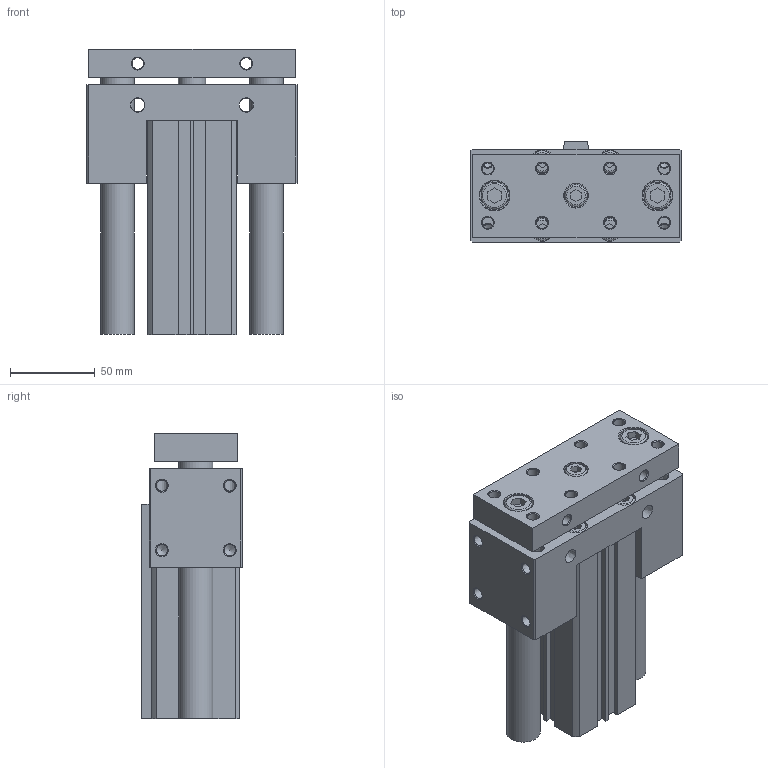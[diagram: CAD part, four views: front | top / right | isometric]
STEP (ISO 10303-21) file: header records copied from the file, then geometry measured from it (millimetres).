
FILE_DESCRIPTION((''),'2;1');
FILE_NAME('I:\3D電子目錄\氣缸\JCB\JCB\JCB40-S\JCB40x90-S.stp','2007-08-23T20:16:43',('Administrator'),(''),'Autodesk Inventor 11','Autodesk Inventor 11','');
FILE_SCHEMA(('AUTOMOTIVE_DESIGN { 1 0 10303 214 1 1 1 1 }'));
Length unit declared in the file: millimetre
Products named in the file (1): JCB40
Bounding box: 124 x 59.5 x 168.5 mm (x, y, z)
Volume: 711330.8 mm3; surface area: 147653.8 mm2
Topology: 3 solids, 3 shells, 303 faces, 731 edges, 473 vertices
Faces by surface type: plane 163, cylinder 52, cone 47, bspline 33, torus 8
Full cylindrical faces by diameter (mm): 2.2 x2, 6.647 x4, 6.8 x4, 10 x8, 13 x5, 14 x5, 16 x3, 17 x1, 17.5 x2, 20 x2, 23 x2, 28 x1, 29 x1, 42 x4, 44.5 x2
Entity records: 8528 total; most frequent: CARTESIAN_POINT 2090, DIRECTION 1302, ORIENTED_EDGE 1114, EDGE_CURVE 557, EDGE_LOOP 522, AXIS2_PLACEMENT_3D 480, VERTEX_POINT 435, VECTOR 342
